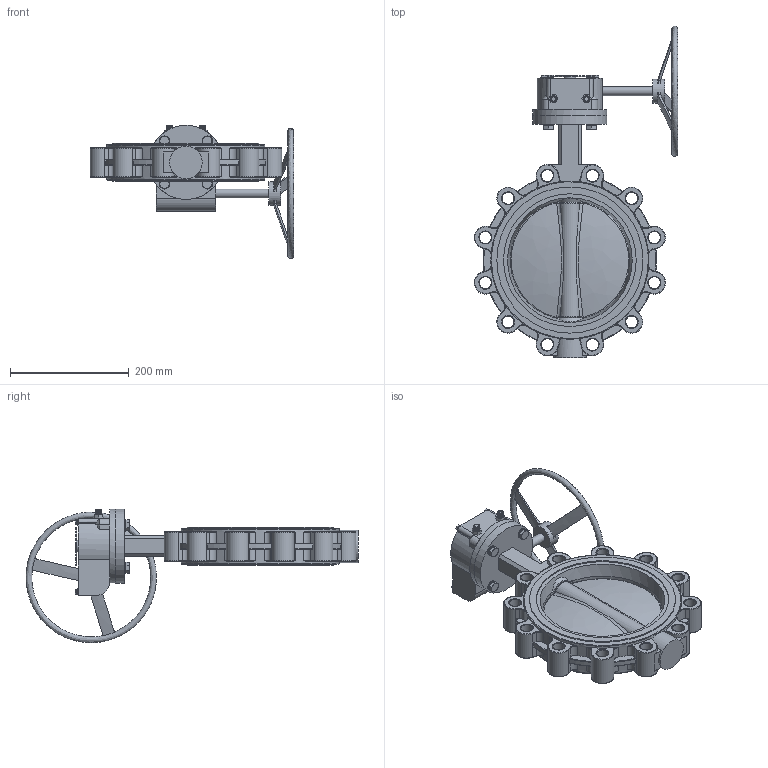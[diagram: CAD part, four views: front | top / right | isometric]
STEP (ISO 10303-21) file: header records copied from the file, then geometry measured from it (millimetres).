
FILE_DESCRIPTION (( 'STEP AP214' ), '1' );
FILE_NAME ('恦謫 等標評概Fig3240-200-16.STEP', '2026-03-20T07:23:45', ( '' ), ( '' ), 'SwSTEP 2.0', 'SolidWorks 2024', '' );
FILE_SCHEMA (( 'AUTOMOTIVE_DESIGN' ));
Length unit declared in the file: millimetre
Products named in the file (1): 涡轮 单夹蝶阀Fig3240-200-16
Bounding box: 343.4 x 559.99 x 225.01 mm (x, y, z)
Surface area: 423849 mm2 (no closed solid volume)
Topology: 0 solids, 1 shells, 856 faces, 2208 edges, 1404 vertices
Faces by surface type: plane 354, bspline 267, cylinder 193, cone 42
Full cylindrical faces by diameter (mm): 6 x4, 10 x10, 10.9 x4, 12 x4, 15 x1, 16.9 x4, 20 x13, 40 x1, 55 x1, 64 x1, 83 x1, 125 x1, 125.02 x1, 223.9 x2, 246.4 x2, 266.4 x2
Entity records: 65290 total; most frequent: CARTESIAN_POINT 37483, ORIENTED_EDGE 4180, DIRECTION 3105, EDGE_CURVE 2101, VERTEX_POINT 1382, AXIS2_PLACEMENT_3D 1086, EDGE_LOOP 1041, LINE 933
